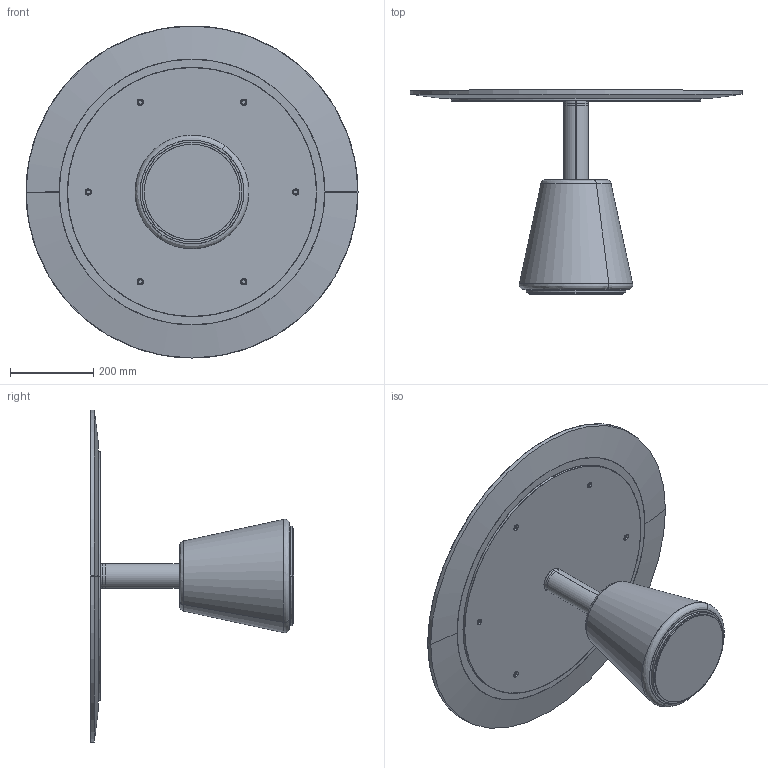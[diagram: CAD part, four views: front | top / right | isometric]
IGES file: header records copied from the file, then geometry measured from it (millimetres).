
Start section: SolidWorks IGES file using analytic representation for surfaces
Global section: file name: C:\Users\SoldaClaudio\Desktop\MENHIR\3D\004231.IGS; native system: SolidWorks 2019; preprocessor: SolidWorks 2019; author: SoldaClaudio; date: 201218.104400; units: millimetre
Bounding box: 800 x 491 x 800 mm (x, y, z)
Surface area: 2310355.4 mm2 (no closed solid volume)
Topology: 0 solids, 0 shells, 310 faces, 5374 edges, 5374 vertices
Faces by surface type: bspline 172, revolution 138
